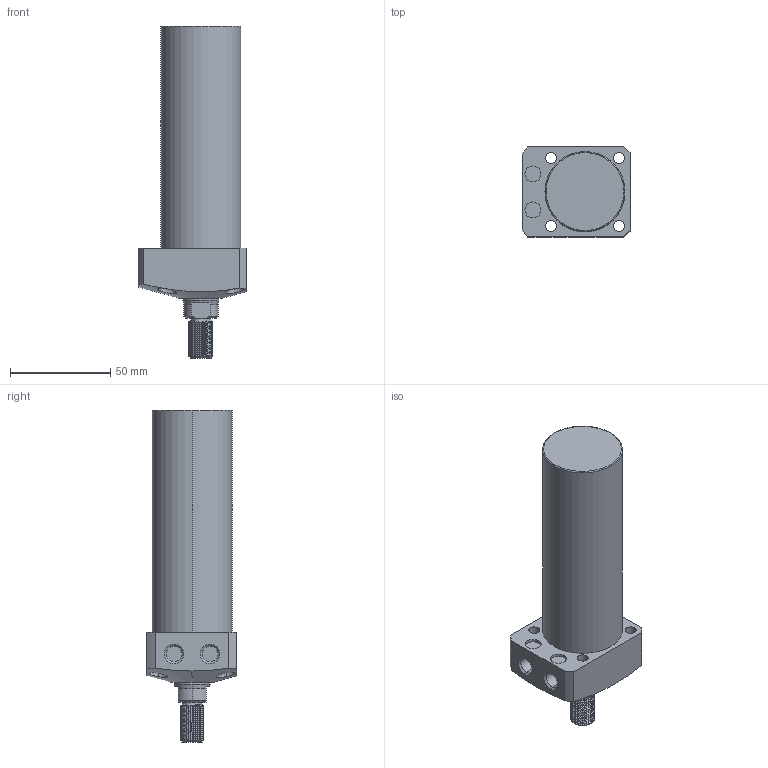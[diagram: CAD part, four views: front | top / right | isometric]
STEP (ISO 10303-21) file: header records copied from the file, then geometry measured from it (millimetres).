
FILE_DESCRIPTION (( 'STEP AP203' ), '1' );
FILE_NAME ('CLL-040CT-085.STEP', '2020-01-08T09:08:43', ( '' ), ( '' ), 'SwSTEP 2.0', 'SolidWorks 2015', '' );
FILE_SCHEMA (( 'CONFIG_CONTROL_DESIGN' ));
Length unit declared in the file: millimetre
Products named in the file (1): CLL-040CT-085
Bounding box: 54 x 45 x 166 mm (x, y, z)
Volume: 193165.7 mm3; surface area: 26806 mm2
Topology: 1 solids, 1 shells, 114 faces, 290 edges, 189 vertices
Faces by surface type: cylinder 71, plane 23, cone 16, torus 2, bspline 2
Entity records: 5835 total; most frequent: CARTESIAN_POINT 3186, ORIENTED_EDGE 580, DIRECTION 498, EDGE_CURVE 290, AXIS2_PLACEMENT_3D 198, VERTEX_POINT 189, EDGE_LOOP 133, ADVANCED_FACE 114
